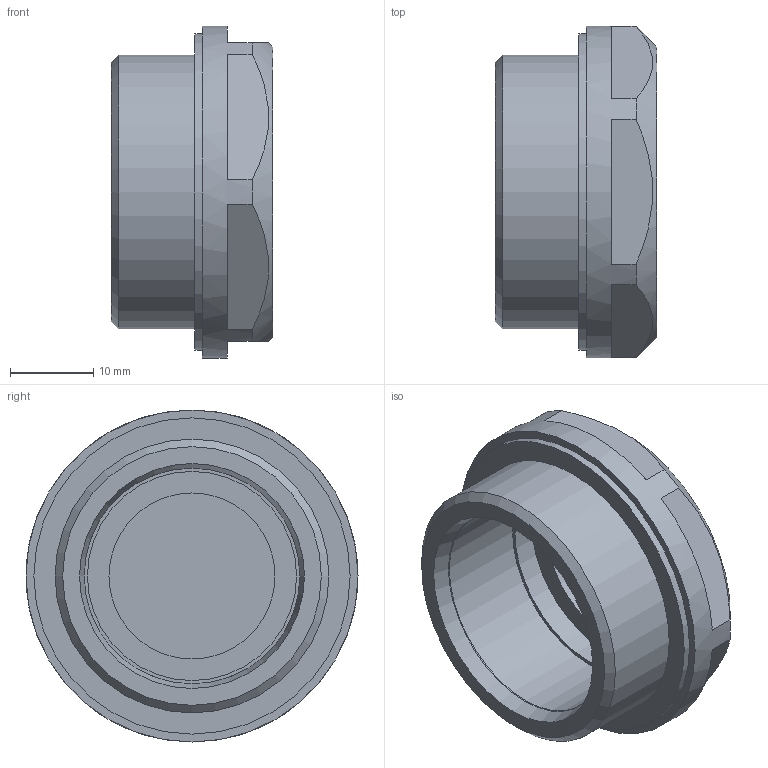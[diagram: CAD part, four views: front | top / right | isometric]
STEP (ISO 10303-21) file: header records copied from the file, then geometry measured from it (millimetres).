
FILE_DESCRIPTION( ( 'STEP AP203' ), '1' );
FILE_NAME( 'C:/Temp/Ganter_Step_05_03_2020/data/3_5/gn_7403/gn_7403_ni/Stainless Steel-Breather strainer GN 7403-NI-M33x1,5-100.stp', '2020-03-12T13:43:03', ( 'License CC BY-ND 4.0' ), ( 'CADENAS' ), ' ', 'PARTsolutions', ' ' );
FILE_SCHEMA( ( 'CONFIG_CONTROL_DESIGN' ) );
Length unit declared in the file: millimetre
Products named in the file (1): _Stainless Steel-Breather strainer GN 7403-NI-M33x1,5-100
Bounding box: 19.5 x 40 x 40 mm (x, y, z)
Volume: 9568.9 mm3; surface area: 5996.9 mm2
Topology: 1 solids, 1 shells, 32 faces, 69 edges, 45 vertices
Faces by surface type: plane 20, cylinder 7, cone 4, torus 1
Full cylindrical faces by diameter (mm): 20 x1, 24 x1, 25.2 x1, 26 x1, 33 x1, 38.1 x1, 40 x1
Entity records: 910 total; most frequent: CARTESIAN_POINT 215, DIRECTION 144, ORIENTED_EDGE 108, AXIS2_PLACEMENT_3D 63, EDGE_CURVE 54, EDGE_LOOP 50, VERTEX_POINT 42, FACE_OUTER_BOUND 40
